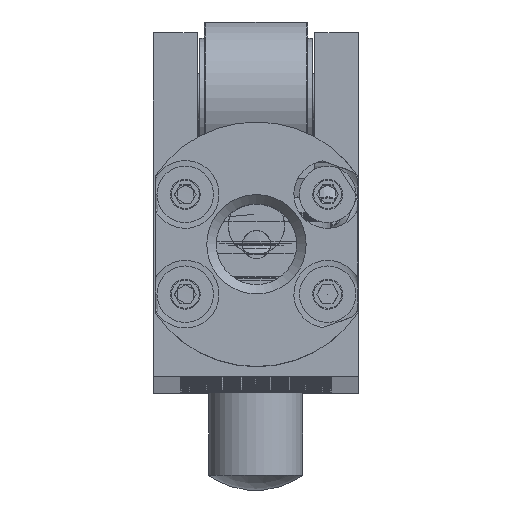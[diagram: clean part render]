
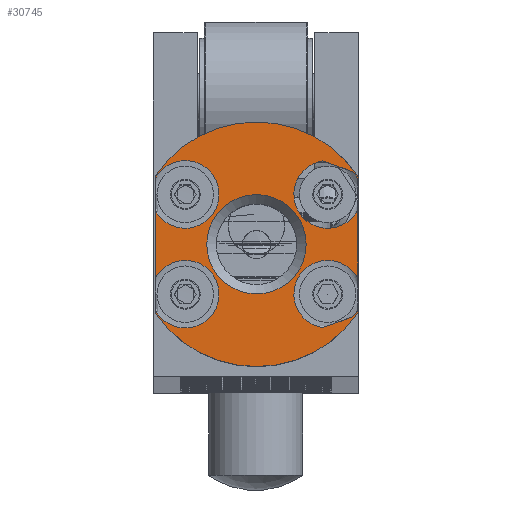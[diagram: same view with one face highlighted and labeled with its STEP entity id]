
A CAD part, top view. The second image highlights one B-rep face of the part: STEP entity #30745.
In plain terms, the highlighted planar face has unit normal (0, 0, 1).
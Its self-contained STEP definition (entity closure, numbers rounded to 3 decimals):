
#1200=FACE_BOUND('',#7595,.T.);
#2233=LINE('',#58544,#3315);
#2234=LINE('',#58546,#3316);
#2235=LINE('',#58551,#3317);
#2242=LINE('',#58600,#3324);
#2245=LINE('',#58621,#3327);
#2246=LINE('',#58622,#3328);
#2247=LINE('',#58623,#3329);
#2250=LINE('',#58637,#3332);
#3315=VECTOR('',#45259,10.);
#3316=VECTOR('',#45260,10.);
#3317=VECTOR('',#45261,10.);
#3324=VECTOR('',#45300,10.);
#3327=VECTOR('',#45317,10.);
#3328=VECTOR('',#45318,10.);
#3329=VECTOR('',#45319,10.);
#3332=VECTOR('',#45336,10.);
#5709=FACE_OUTER_BOUND('',#7594,.T.);
#7594=EDGE_LOOP('',(#27290,#27291,#27292,#27293,#27294,#27295,#27296,#27297,
#27298,#27299,#27300,#27301,#27302,#27303,#27304,#27305));
#7595=EDGE_LOOP('',(#27306));
#10556=CIRCLE('',#35240,13.);
#10561=CIRCLE('',#35249,13.);
#10567=CIRCLE('',#35260,5.283);
#10570=CIRCLE('',#35265,3.6);
#10573=CIRCLE('',#35271,3.6);
#10574=CIRCLE('',#35272,3.6);
#10577=CIRCLE('',#35278,3.6);
#10578=CIRCLE('',#35280,3.6);
#10579=CIRCLE('',#35281,3.6);
#13679=VERTEX_POINT('',#58516);
#13680=VERTEX_POINT('',#58518);
#13684=VERTEX_POINT('',#58533);
#13685=VERTEX_POINT('',#58535);
#13686=VERTEX_POINT('',#58539);
#13687=VERTEX_POINT('',#58540);
#13688=VERTEX_POINT('',#58545);
#13689=VERTEX_POINT('',#58547);
#13695=VERTEX_POINT('',#58569);
#13698=VERTEX_POINT('',#58579);
#13700=VERTEX_POINT('',#58584);
#13701=VERTEX_POINT('',#58591);
#13703=VERTEX_POINT('',#58596);
#13706=VERTEX_POINT('',#58612);
#13708=VERTEX_POINT('',#58617);
#13711=VERTEX_POINT('',#58634);
#13712=VERTEX_POINT('',#58636);
#18201=EDGE_CURVE('',#13680,#13679,#10556,.T.);
#18208=EDGE_CURVE('',#13684,#13685,#10561,.T.);
#18211=EDGE_CURVE('',#13680,#13687,#2233,.T.);
#18212=EDGE_CURVE('',#13688,#13685,#2234,.T.);
#18214=EDGE_CURVE('',#13686,#13689,#2235,.T.);
#18223=EDGE_CURVE('',#13695,#13695,#10567,.T.);
#18229=EDGE_CURVE('',#13700,#13698,#10570,.T.);
#18234=EDGE_CURVE('',#13701,#13703,#2242,.T.);
#18238=EDGE_CURVE('',#13703,#13688,#10573,.T.);
#18240=EDGE_CURVE('',#13689,#13701,#10574,.T.);
#18243=EDGE_CURVE('',#13698,#13708,#2245,.T.);
#18244=EDGE_CURVE('',#13684,#13700,#2246,.T.);
#18245=EDGE_CURVE('',#13706,#13679,#2247,.T.);
#18249=EDGE_CURVE('',#13708,#13706,#10577,.T.);
#18251=EDGE_CURVE('',#13687,#13711,#10578,.T.);
#18252=EDGE_CURVE('',#13711,#13712,#2250,.T.);
#18253=EDGE_CURVE('',#13712,#13686,#10579,.T.);
#27290=ORIENTED_EDGE('',*,*,#18251,.T.);
#27291=ORIENTED_EDGE('',*,*,#18252,.T.);
#27292=ORIENTED_EDGE('',*,*,#18253,.T.);
#27293=ORIENTED_EDGE('',*,*,#18214,.T.);
#27294=ORIENTED_EDGE('',*,*,#18240,.T.);
#27295=ORIENTED_EDGE('',*,*,#18234,.T.);
#27296=ORIENTED_EDGE('',*,*,#18238,.T.);
#27297=ORIENTED_EDGE('',*,*,#18212,.T.);
#27298=ORIENTED_EDGE('',*,*,#18208,.F.);
#27299=ORIENTED_EDGE('',*,*,#18244,.T.);
#27300=ORIENTED_EDGE('',*,*,#18229,.T.);
#27301=ORIENTED_EDGE('',*,*,#18243,.T.);
#27302=ORIENTED_EDGE('',*,*,#18249,.T.);
#27303=ORIENTED_EDGE('',*,*,#18245,.T.);
#27304=ORIENTED_EDGE('',*,*,#18201,.F.);
#27305=ORIENTED_EDGE('',*,*,#18211,.T.);
#27306=ORIENTED_EDGE('',*,*,#18223,.F.);
#27825=PLANE('',#35279);
#30745=ADVANCED_FACE('',(#5709,#1200),#27825,.T.);
#35240=AXIS2_PLACEMENT_3D('',#58520,#45234,#45235);
#35249=AXIS2_PLACEMENT_3D('',#58536,#45254,#45255);
#35260=AXIS2_PLACEMENT_3D('',#58570,#45283,#45284);
#35265=AXIS2_PLACEMENT_3D('',#58585,#45295,#45296);
#35271=AXIS2_PLACEMENT_3D('',#58608,#45310,#45311);
#35272=AXIS2_PLACEMENT_3D('',#58610,#45313,#45314);
#35278=AXIS2_PLACEMENT_3D('',#58631,#45329,#45330);
#35279=AXIS2_PLACEMENT_3D('',#58633,#45332,#45333);
#35280=AXIS2_PLACEMENT_3D('',#58635,#45334,#45335);
#35281=AXIS2_PLACEMENT_3D('',#58638,#45337,#45338);
#45234=DIRECTION('center_axis',(0.,0.,
-1.));
#45235=DIRECTION('ref_axis',(0.,1.,0.));
#45254=DIRECTION('center_axis',(0.,0.,
-1.));
#45255=DIRECTION('ref_axis',(0.,1.,0.));
#45259=DIRECTION('',(0.,1.,0.));
#45260=DIRECTION('',(0.,1.,0.));
#45261=DIRECTION('',(0.,1.,0.));
#45283=DIRECTION('center_axis',(0.,0.,
1.));
#45284=DIRECTION('ref_axis',(-1.,0.,0.));
#45295=DIRECTION('center_axis',(0.,0.,
-1.));
#45296=DIRECTION('ref_axis',(1.,0.,0.));
#45300=DIRECTION('',(0.94,-0.342,0.));
#45310=DIRECTION('center_axis',(0.,0.,
-1.));
#45311=DIRECTION('ref_axis',(-0.342,-0.94,0.));
#45313=DIRECTION('center_axis',(0.,0.,
-1.));
#45314=DIRECTION('ref_axis',(-0.342,-0.94,0.));
#45317=DIRECTION('',(0.,-1.,0.));
#45318=DIRECTION('',(0.,-1.,0.));
#45319=DIRECTION('',(0.,-1.,0.));
#45329=DIRECTION('center_axis',(0.,0.,
-1.));
#45330=DIRECTION('ref_axis',(1.,0.,0.));
#45332=DIRECTION('center_axis',(0.,0.,
1.));
#45333=DIRECTION('ref_axis',(1.,0.,0.));
#45334=DIRECTION('center_axis',(0.,0.,
-1.));
#45335=DIRECTION('ref_axis',(-0.342,0.94,0.));
#45336=DIRECTION('',(-0.94,-0.342,0.));
#45337=DIRECTION('center_axis',(0.,0.,
-1.));
#45338=DIRECTION('ref_axis',(-0.342,0.94,0.));
#58516=CARTESIAN_POINT('',(-10.7,-11.56,536.));
#58518=CARTESIAN_POINT('',(10.8,-11.56,536.));
#58520=CARTESIAN_POINT('Origin',(0.05,-4.25,536.));
#58533=CARTESIAN_POINT('',(-10.7,3.06,536.));
#58535=CARTESIAN_POINT('',(10.8,3.06,536.));
#58536=CARTESIAN_POINT('Origin',(0.05,-4.25,536.));
#58539=CARTESIAN_POINT('',(10.8,-7.855,536.));
#58540=CARTESIAN_POINT('',(10.8,-11.256,536.));
#58544=CARTESIAN_POINT('',(10.8,-4.655,536.));
#58545=CARTESIAN_POINT('',(10.8,2.756,536.));
#58546=CARTESIAN_POINT('',(10.8,-4.655,536.));
#58547=CARTESIAN_POINT('',(10.8,-0.645,536.));
#58551=CARTESIAN_POINT('',(10.8,-4.655,536.));
#58569=CARTESIAN_POINT('',(5.333,-4.25,536.));
#58570=CARTESIAN_POINT('Origin',(0.05,-4.25,536.));
#58579=CARTESIAN_POINT('',(-10.7,-0.645,536.));
#58584=CARTESIAN_POINT('',(-10.7,2.756,536.));
#58585=CARTESIAN_POINT('Origin',(-7.527,1.056,536.));
#58591=CARTESIAN_POINT('',(7.114,4.619,536.));
#58596=CARTESIAN_POINT('',(10.311,3.455,536.));
#58600=CARTESIAN_POINT('',(6.117,4.982,536.));
#58608=CARTESIAN_POINT('Origin',(7.627,1.056,536.));
#58610=CARTESIAN_POINT('Origin',(7.627,1.056,536.));
#58612=CARTESIAN_POINT('',(-10.7,-11.256,536.));
#58617=CARTESIAN_POINT('',(-10.7,-7.855,536.));
#58621=CARTESIAN_POINT('',(-10.7,2.655,536.));
#58622=CARTESIAN_POINT('',(-10.7,2.655,536.));
#58623=CARTESIAN_POINT('',(-10.7,2.655,536.));
#58631=CARTESIAN_POINT('Origin',(-7.527,-9.556,536.));
#58633=CARTESIAN_POINT('Origin',(0.05,2.25,536.));
#58634=CARTESIAN_POINT('',(10.311,-11.955,536.));
#58635=CARTESIAN_POINT('Origin',(7.627,-9.556,536.));
#58636=CARTESIAN_POINT('',(7.114,-13.119,536.));
#58637=CARTESIAN_POINT('',(8.206,-12.721,536.));
#58638=CARTESIAN_POINT('Origin',(7.627,-9.556,536.));
